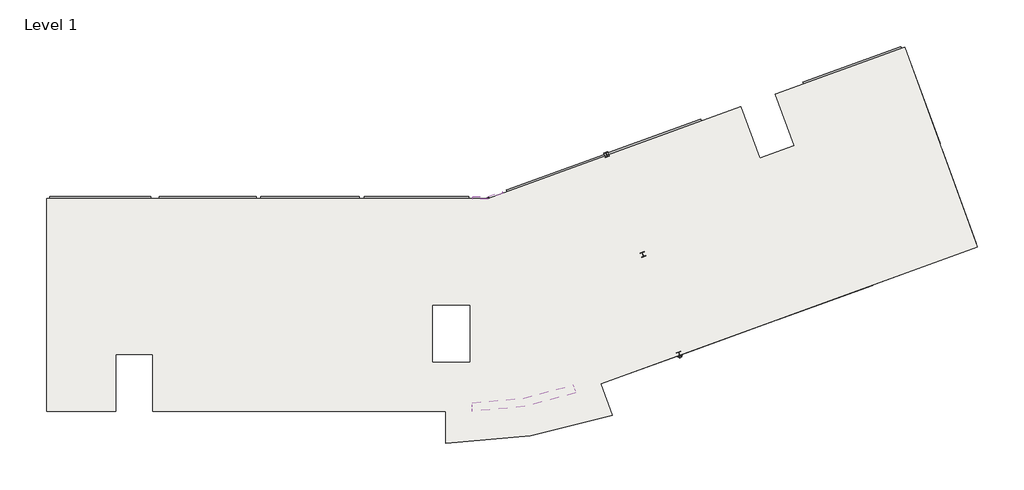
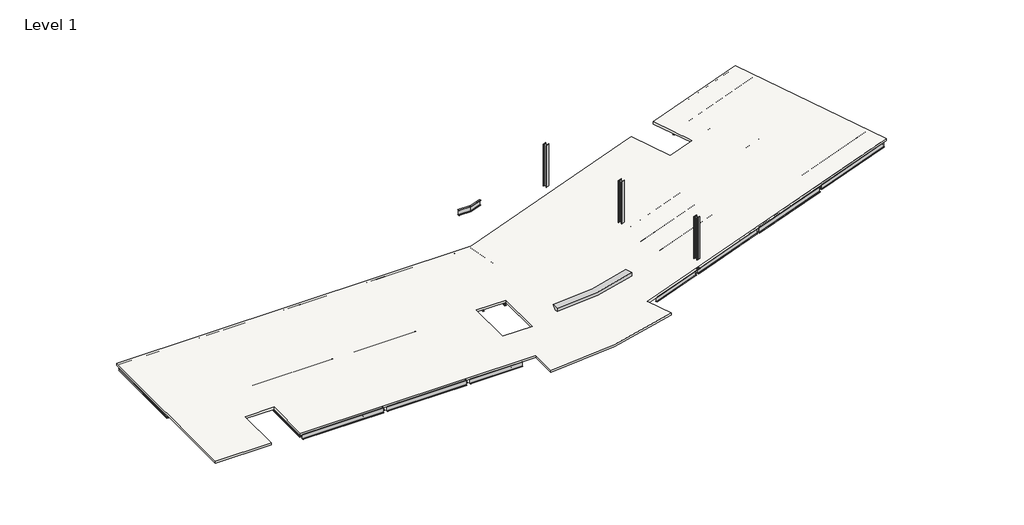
# One storey: 87 beams, 3 columns, 1 proxy, 1 slab.
"""IFC4 building model written with IfcOpenShell, lengths in millimetres."""

from ifc_helpers import new_model, si_unit, point, frame, frame_2d, origin, place, context, project, spatial, polyline, circle_curve, trimmed, segment, composite_curve, outline, extrude, transform, mapped, element, save
from ifc_brep_helpers import plane_surface, cylinder_surface, revolved_surface, advanced_brep
from components import beam_e63ae445, l_unequal_leg_angles_l150x75x12_5957f89b, ub_universal_beams_ub305x127x37_14baedf7, ub_universal_beams_ub305x127x37_f823aa85, ub_universal_beams_ub305x127x37_cdbcbb51, ub_universal_beams_ub305x127x37_8d1efc97, ub_universal_beams_ub305x127x37_2b7a043a, ub_universal_beams_ub305x127x37_8d2b0bf5, ub_universal_beams_ub305x127x37_777f85ab, ub_universal_beams_ub305x127x37_60794b88, ub_universal_beams_ub305x127x37_7b5c5eb2, ub_universal_beams_ub305x127x37_99f87efb, ub_universal_beams_ub305x127x37_95b6a02e, ub_universal_beams_ub305x127x37_c2daeff1, ub_universal_beams_ub457x152x67_feb0265b, ub_universal_beams_ub457x152x67_78ad538f, ub_universal_beams_ub457x152x67_801fcbf0, ub_universal_beams_ub457x152x67_7192e0ee, ub_universal_beams_ub457x152x67_e0a47d06, ub_universal_beams_ub457x152x67_f5dc209c, ub_universal_beams_ub457x152x67_f862a4b8, ub_universal_beams_ub457x152x67_8999ab95, ub_universal_beams_ub457x152x67_f4163d89, ub_universal_beams_ub457x152x67_2e62ce28, ub_universal_beams_ub457x152x67_04894bd8, ub_universal_beams_ub457x152x67_86edb436, ub_universal_beams_ub457x152x67_b17e2f2f, ub_universal_beams_ub457x152x67_b2f2df74, ub_universal_beams_ub457x152x67_b8e2def0, ub_universal_beams_ub457x152x67_2ff38e45, ub_universal_beams_ub457x152x67_e84ce350, ub_universal_beams_ub457x152x67_9db4b58f, ub_universal_beams_ub457x152x67_cb9275ae, ub_universal_beams_ub457x152x67_412efc86, ub_universal_beams_ub457x152x67_9aa03224, ub_universal_beams_ub457x152x67_9cac6dc0, ub_universal_beams_ub457x152x67_907c3d5a, ub_universal_beams_ub457x152x67_0b84d38f, ub_universal_beams_ub457x152x67_1f1a17ad, ub_universal_beams_ub457x152x67_691381ed, ub_universal_beams_ub457x152x67_d2a0b01a, ub_universal_beams_ub457x152x67_b2398499, ub_universal_beams_ub457x152x67_5dccb8d6, ub_universal_beams_ub457x152x67_9299ccfd, ub_universal_beams_ub533x210x82_ef77b3a2, w_shapes_column_w12x79_b89a37d1

model = new_model("IFC4")

# Units and contexts
model_context = context("Model", 3, world=origin())
ifc_project = project(units=[si_unit("LENGTHUNIT", "METRE", prefix="MILLI")], contexts=[model_context])

# Site, building, storey
site = spatial("IfcSite", under=ifc_project)
building = spatial("IfcBuilding", under=site)
storey = spatial("IfcBuildingStorey", under=building, Name="Level 1", Elevation=3695.0)

# Beams
placement = place(None, origin())
beam_shape = beam_e63ae445(model_context)
element("IfcBeam", 1, ObjectType="Cranked Beam B2 : Cranked Beam B1", at=placement, inside=storey, context=model_context, shape_type="MappedRepresentation", body=[
    mapped(beam_shape, transform((0.0, 0.0, 0.0), x_axis=(1.0, 0.0, 0.0), y_axis=(0.0, 1.0, 0.0), z_axis=(0.0, 0.0, 1.0))),
])
l_unequal_leg_angles_l150x75x12_shape = l_unequal_leg_angles_l150x75x12_5957f89b(model_context)
element("IfcBeam", 2, ObjectType="L-Unequal Leg Angles : L150x75x12", at=placement, inside=storey, context=model_context, shape_type="MappedRepresentation", body=[
    mapped(l_unequal_leg_angles_l150x75x12_shape, transform((45120.9767448, 4161.3796452, 3850.0), x_axis=(0.9396926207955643, 0.3420201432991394, 0.0), y_axis=(0.0, 0.0, 1.0), z_axis=(0.3420201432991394, -0.9396926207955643, 0.0))),
])
ub_universal_beams_ub305x127x37_shape = ub_universal_beams_ub305x127x37_14baedf7(model_context)
element("IfcBeam", 3, ObjectType="UB-Universal Beams : UB305x127x37", at=placement, inside=storey, context=model_context, shape_type="MappedRepresentation", body=[
    mapped(ub_universal_beams_ub305x127x37_shape, transform((2457.6125027, 11575.7000004, 3542.8), x_axis=(0.0, 1.0, 0.0), y_axis=(-1.0, 0.0, 0.0), z_axis=(0.0, 0.0, 1.0))),
])
element("IfcBeam", 4, ObjectType="UB-Universal Beams : UB305x127x37", at=placement, inside=storey, context=model_context, shape_type="MappedRepresentation", body=[
    mapped(ub_universal_beams_ub305x127x37_shape, transform((4301.1250026, 11575.7000004, 3542.8), x_axis=(0.0, 1.0, 0.0), y_axis=(-1.0, 0.0, 0.0), z_axis=(0.0, 0.0, 1.0))),
])
element("IfcBeam", 5, ObjectType="UB-Universal Beams : UB305x127x37", at=placement, inside=storey, context=model_context, shape_type="MappedRepresentation", body=[
    mapped(ub_universal_beams_ub305x127x37_shape, transform((6144.6375025, 11575.7000005, 3542.8), x_axis=(0.0, 1.0, 0.0), y_axis=(-1.0, 0.0, 0.0), z_axis=(0.0, 0.0, 1.0))),
])
ub_universal_beams_ub305x127x37_2_shape = ub_universal_beams_ub305x127x37_f823aa85(model_context)
element("IfcBeam", 6, ObjectType="UB-Universal Beams : UB305x127x37", at=placement, inside=storey, context=model_context, shape_type="MappedRepresentation", body=[
    mapped(ub_universal_beams_ub305x127x37_2_shape, transform((9831.6625024, 4113.2000005, 3542.8), x_axis=(0.0, 1.0, 0.0), y_axis=(-1.0, 0.0, 0.0), z_axis=(0.0, 0.0, 1.0))),
])
element("IfcBeam", 7, ObjectType="UB-Universal Beams : UB305x127x37", at=placement, inside=storey, context=model_context, shape_type="MappedRepresentation", body=[
    mapped(ub_universal_beams_ub305x127x37_2_shape, transform((11675.1750024, 4113.2000005, 3542.8), x_axis=(0.0, 1.0, 0.0), y_axis=(-1.0, 0.0, 0.0), z_axis=(0.0, 0.0, 1.0))),
])
element("IfcBeam", 8, ObjectType="UB-Universal Beams : UB305x127x37", at=placement, inside=storey, context=model_context, shape_type="MappedRepresentation", body=[
    mapped(ub_universal_beams_ub305x127x37_2_shape, transform((13518.6875023, 4113.2000005, 3542.8), x_axis=(0.0, 1.0, 0.0), y_axis=(-1.0, 0.0, 0.0), z_axis=(0.0, 0.0, 1.0))),
])
element("IfcBeam", 9, ObjectType="UB-Universal Beams : UB305x127x37", at=placement, inside=storey, context=model_context, shape_type="MappedRepresentation", body=[
    mapped(ub_universal_beams_ub305x127x37_2_shape, transform((9887.2000022, 11613.2000005, 3542.8), x_axis=(0.0, 1.0, 0.0), y_axis=(-1.0, 0.0, 0.0), z_axis=(0.0, 0.0, 1.0))),
])
element("IfcBeam", 10, ObjectType="UB-Universal Beams : UB305x127x37", at=placement, inside=storey, context=model_context, shape_type="MappedRepresentation", body=[
    mapped(ub_universal_beams_ub305x127x37_2_shape, transform((11712.2000022, 11613.2000005, 3542.8), x_axis=(0.0, 1.0, 0.0), y_axis=(-1.0, 0.0, 0.0), z_axis=(0.0, 0.0, 1.0))),
])
element("IfcBeam", 11, ObjectType="UB-Universal Beams : UB305x127x37", at=placement, inside=storey, context=model_context, shape_type="MappedRepresentation", body=[
    mapped(ub_universal_beams_ub305x127x37_2_shape, transform((13537.2000023, 11613.2000005, 3542.8), x_axis=(0.0, 1.0, 0.0), y_axis=(-1.0, 0.0, 0.0), z_axis=(0.0, 0.0, 1.0))),
])
element("IfcBeam", 12, ObjectType="UB-Universal Beams : UB305x127x37", at=placement, inside=storey, context=model_context, shape_type="MappedRepresentation", body=[
    mapped(ub_universal_beams_ub305x127x37_2_shape, transform((17187.2000023, 11613.2000005, 3542.8), x_axis=(0.0, 1.0, 0.0), y_axis=(-1.0, 0.0, 0.0), z_axis=(0.0, 0.0, 1.0))),
])
element("IfcBeam", 13, ObjectType="UB-Universal Beams : UB305x127x37", at=placement, inside=storey, context=model_context, shape_type="MappedRepresentation", body=[
    mapped(ub_universal_beams_ub305x127x37_2_shape, transform((19012.2000023, 11613.2000005, 3542.8), x_axis=(0.0, 1.0, 0.0), y_axis=(-1.0, 0.0, 0.0), z_axis=(0.0, 0.0, 1.0))),
])
element("IfcBeam", 14, ObjectType="UB-Universal Beams : UB305x127x37", at=placement, inside=storey, context=model_context, shape_type="MappedRepresentation", body=[
    mapped(ub_universal_beams_ub305x127x37_2_shape, transform((20837.2000022, 11613.2000005, 3542.8), x_axis=(0.0, 1.0, 0.0), y_axis=(-1.0, 0.0, 0.0), z_axis=(0.0, 0.0, 1.0))),
])
element("IfcBeam", 15, ObjectType="UB-Universal Beams : UB305x127x37", at=placement, inside=storey, context=model_context, shape_type="MappedRepresentation", body=[
    mapped(ub_universal_beams_ub305x127x37_2_shape, transform((24587.2000022, 11613.2000005, 3542.8), x_axis=(0.0, 1.0, 0.0), y_axis=(-1.0, 0.0, 0.0), z_axis=(0.0, 0.0, 1.0))),
])
element("IfcBeam", 16, ObjectType="UB-Universal Beams : UB305x127x37", at=placement, inside=storey, context=model_context, shape_type="MappedRepresentation", body=[
    mapped(ub_universal_beams_ub305x127x37_2_shape, transform((26512.2000022, 11613.2000005, 3542.8), x_axis=(0.0, 1.0, 0.0), y_axis=(-1.0, 0.0, 0.0), z_axis=(0.0, 0.0, 1.0))),
])
element("IfcBeam", 17, ObjectType="UB-Universal Beams : UB305x127x37", at=placement, inside=storey, context=model_context, shape_type="MappedRepresentation", body=[
    mapped(ub_universal_beams_ub305x127x37_2_shape, transform((17187.2000022, 4113.2000005, 3542.8), x_axis=(0.0, 1.0, 0.0), y_axis=(-1.0, 0.0, 0.0), z_axis=(0.0, 0.0, 1.0))),
])
element("IfcBeam", 18, ObjectType="UB-Universal Beams : UB305x127x37", at=placement, inside=storey, context=model_context, shape_type="MappedRepresentation", body=[
    mapped(ub_universal_beams_ub305x127x37_2_shape, transform((19012.2000022, 4113.2000005, 3542.8), x_axis=(0.0, 1.0, 0.0), y_axis=(-1.0, 0.0, 0.0), z_axis=(0.0, 0.0, 1.0))),
])
element("IfcBeam", 19, ObjectType="UB-Universal Beams : UB305x127x37", at=placement, inside=storey, context=model_context, shape_type="MappedRepresentation", body=[
    mapped(ub_universal_beams_ub305x127x37_2_shape, transform((20837.2000022, 4113.2000005, 3542.8), x_axis=(0.0, 1.0, 0.0), y_axis=(-1.0, 0.0, 0.0), z_axis=(0.0, 0.0, 1.0))),
])
element("IfcBeam", 20, ObjectType="UB-Universal Beams : UB305x127x37", at=placement, inside=storey, context=model_context, shape_type="MappedRepresentation", body=[
    mapped(ub_universal_beams_ub305x127x37_2_shape, transform((24587.2000022, 4113.2000004, 3542.8), x_axis=(0.0, 1.0, 0.0), y_axis=(-1.0, 0.0, 0.0), z_axis=(0.0, 0.0, 1.0))),
])
element("IfcBeam", 21, ObjectType="UB-Universal Beams : UB305x127x37", at=placement, inside=storey, context=model_context, shape_type="MappedRepresentation", body=[
    mapped(ub_universal_beams_ub305x127x37_2_shape, transform((26512.2000022, 4113.2000004, 3542.8), x_axis=(0.0, 1.0, 0.0), y_axis=(-1.0, 0.0, 0.0), z_axis=(0.0, 0.0, 1.0))),
])
element("IfcBeam", 22, ObjectType="UB-Universal Beams : UB305x127x37", at=placement, inside=storey, context=model_context, shape_type="MappedRepresentation", body=[
    mapped(ub_universal_beams_ub305x127x37_2_shape, transform((39409.0148654, 14226.6858637, 3542.8), x_axis=(0.34202014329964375, -0.9396926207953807, 0.0), y_axis=(0.9396926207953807, 0.34202014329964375, 0.0), z_axis=(0.0, 0.0, 1.0))),
])
element("IfcBeam", 23, ObjectType="UB-Universal Beams : UB305x127x37", at=placement, inside=storey, context=model_context, shape_type="MappedRepresentation", body=[
    mapped(ub_universal_beams_ub305x127x37_2_shape, transform((37600.1065704, 13568.2970878, 3542.8), x_axis=(0.34202014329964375, -0.9396926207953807, 0.0), y_axis=(0.9396926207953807, 0.34202014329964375, 0.0), z_axis=(0.0, 0.0, 1.0))),
])
element("IfcBeam", 24, ObjectType="UB-Universal Beams : UB305x127x37", at=placement, inside=storey, context=model_context, shape_type="MappedRepresentation", body=[
    mapped(ub_universal_beams_ub305x127x37_2_shape, transform((42915.2429568, 15502.8485233, 3542.8), x_axis=(-0.3420201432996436, 0.9396926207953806, 0.0), y_axis=(-0.9396926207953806, -0.3420201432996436, 0.0), z_axis=(0.0, 0.0, 1.0))),
])
element("IfcBeam", 25, ObjectType="UB-Universal Beams : UB305x127x37", at=placement, inside=storey, context=model_context, shape_type="MappedRepresentation", body=[
    mapped(ub_universal_beams_ub305x127x37_2_shape, transform((44612.5627531, 16120.6224071, 3542.8), x_axis=(-0.34202014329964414, 0.9396926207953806, 0.0), y_axis=(-0.9396926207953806, -0.34202014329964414, 0.0), z_axis=(0.0, 0.0, 1.0))),
])
element("IfcBeam", 26, ObjectType="UB-Universal Beams : UB305x127x37", at=placement, inside=storey, context=model_context, shape_type="MappedRepresentation", body=[
    mapped(ub_universal_beams_ub305x127x37_2_shape, transform((46309.8825494, 16738.396291, 3542.8), x_axis=(-0.34202014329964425, 0.9396926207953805, 0.0), y_axis=(-0.9396926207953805, -0.34202014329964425, 0.0), z_axis=(0.0, 0.0, 1.0))),
])
ub_universal_beams_ub305x127x37_3_shape = ub_universal_beams_ub305x127x37_cdbcbb51(model_context)
element("IfcBeam", 27, ObjectType="UB-Universal Beams : UB305x127x37", at=placement, inside=storey, context=model_context, shape_type="MappedRepresentation", body=[
    mapped(ub_universal_beams_ub305x127x37_3_shape, transform((28437.2000022, 11613.2000005, 3542.8), x_axis=(0.0, 1.0, 0.0), y_axis=(-1.0, 0.0, 0.0), z_axis=(0.0, 0.0, 1.0))),
])
ub_universal_beams_ub305x127x37_4_shape = ub_universal_beams_ub305x127x37_8d1efc97(model_context)
element("IfcBeam", 28, ObjectType="UB-Universal Beams : UB305x127x37", at=placement, inside=storey, context=model_context, shape_type="MappedRepresentation", body=[
    mapped(ub_universal_beams_ub305x127x37_4_shape, transform((35791.1982754, 12909.908312, 3542.8), x_axis=(0.3420201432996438, -0.9396926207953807, 0.0), y_axis=(0.9396926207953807, 0.3420201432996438, 0.0), z_axis=(0.0, 0.0, 1.0))),
])
ub_universal_beams_ub305x127x37_5_shape = ub_universal_beams_ub305x127x37_2b7a043a(model_context)
element("IfcBeam", 29, ObjectType="UB-Universal Beams : UB305x127x37", at=placement, inside=storey, context=model_context, shape_type="MappedRepresentation", body=[
    mapped(ub_universal_beams_ub305x127x37_5_shape, transform((42122.1150828, 5237.5069684, 3542.8), x_axis=(-0.939692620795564, -0.3420201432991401, 0.0), y_axis=(0.3420201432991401, -0.939692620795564, 0.0), z_axis=(0.0, 0.0, 1.0))),
])
element("IfcBeam", 30, ObjectType="UB-Universal Beams : UB305x127x37", at=placement, inside=storey, context=model_context, shape_type="MappedRepresentation", body=[
    mapped(ub_universal_beams_ub305x127x37_5_shape, transform((41480.8273141, 6999.4306323, 3542.8), x_axis=(-0.9396926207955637, -0.3420201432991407, 0.0), y_axis=(0.3420201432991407, -0.9396926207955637, 0.0), z_axis=(0.0, 0.0, 1.0))),
])
element("IfcBeam", 31, ObjectType="UB-Universal Beams : UB305x127x37", at=placement, inside=storey, context=model_context, shape_type="MappedRepresentation", body=[
    mapped(ub_universal_beams_ub305x127x37_5_shape, transform((40839.5395455, 8761.3542963, 3542.8), x_axis=(-0.939692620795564, -0.3420201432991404, 0.0), y_axis=(0.3420201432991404, -0.939692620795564, 0.0), z_axis=(0.0, 0.0, 1.0))),
])
ub_universal_beams_ub305x127x37_6_shape = ub_universal_beams_ub305x127x37_8d2b0bf5(model_context)
element("IfcBeam", 32, ObjectType="UB-Universal Beams : UB305x127x37", at=placement, inside=storey, context=model_context, shape_type="MappedRepresentation", body=[
    mapped(ub_universal_beams_ub305x127x37_6_shape, transform((46536.4260592, 10834.8514152, 3542.8), x_axis=(0.9396926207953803, 0.342020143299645, 0.0), y_axis=(-0.342020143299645, 0.9396926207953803, 0.0), z_axis=(0.0, 0.0, 1.0))),
])
element("IfcBeam", 33, ObjectType="UB-Universal Beams : UB305x127x37", at=placement, inside=storey, context=model_context, shape_type="MappedRepresentation", body=[
    mapped(ub_universal_beams_ub305x127x37_6_shape, transform((47177.7138279, 9072.9277512, 3542.8), x_axis=(0.9396926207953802, 0.34202014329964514, 0.0), y_axis=(-0.34202014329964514, 0.9396926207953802, 0.0), z_axis=(0.0, 0.0, 1.0))),
])
element("IfcBeam", 34, ObjectType="UB-Universal Beams : UB305x127x37", at=placement, inside=storey, context=model_context, shape_type="MappedRepresentation", body=[
    mapped(ub_universal_beams_ub305x127x37_6_shape, transform((47819.0015966, 7311.0040872, 3542.8), x_axis=(0.9396926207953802, 0.3420201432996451, 0.0), y_axis=(-0.3420201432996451, 0.9396926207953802, 0.0), z_axis=(0.0, 0.0, 1.0))),
])
ub_universal_beams_ub305x127x37_7_shape = ub_universal_beams_ub305x127x37_777f85ab(model_context)
element("IfcBeam", 35, ObjectType="UB-Universal Beams : UB305x127x37", at=placement, inside=storey, context=model_context, shape_type="MappedRepresentation", body=[
    mapped(ub_universal_beams_ub305x127x37_7_shape, transform((60479.1153202, 15909.5752914, 3542.8), x_axis=(0.9396926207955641, 0.34202014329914, 0.0), y_axis=(-0.34202014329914, 0.9396926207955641, 0.0), z_axis=(0.0, 0.0, 1.0))),
])
element("IfcBeam", 36, ObjectType="UB-Universal Beams : UB305x127x37", at=placement, inside=storey, context=model_context, shape_type="MappedRepresentation", body=[
    mapped(ub_universal_beams_ub305x127x37_7_shape, transform((61120.4030889, 14147.6516274, 3542.8), x_axis=(0.9396926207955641, 0.34202014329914, 0.0), y_axis=(-0.34202014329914, 0.9396926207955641, 0.0), z_axis=(0.0, 0.0, 1.0))),
])
element("IfcBeam", 37, ObjectType="UB-Universal Beams : UB305x127x37", at=placement, inside=storey, context=model_context, shape_type="MappedRepresentation", body=[
    mapped(ub_universal_beams_ub305x127x37_7_shape, transform((61761.6908576, 12385.7279634, 3542.8), x_axis=(0.9396926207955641, 0.3420201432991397, 0.0), y_axis=(-0.3420201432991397, 0.9396926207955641, 0.0), z_axis=(0.0, 0.0, 1.0))),
])
element("IfcBeam", 38, ObjectType="UB-Universal Beams : UB305x127x37", at=placement, inside=storey, context=model_context, shape_type="MappedRepresentation", body=[
    mapped(ub_universal_beams_ub305x127x37_7_shape, transform((57913.9642455, 22957.2699473, 3542.8), x_axis=(0.9396926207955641, 0.3420201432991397, 0.0), y_axis=(-0.3420201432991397, 0.9396926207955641, 0.0), z_axis=(0.0, 0.0, 1.0))),
])
element("IfcBeam", 39, ObjectType="UB-Universal Beams : UB305x127x37", at=placement, inside=storey, context=model_context, shape_type="MappedRepresentation", body=[
    mapped(ub_universal_beams_ub305x127x37_7_shape, transform((58555.2520142, 21195.3462833, 3542.8), x_axis=(0.9396926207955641, 0.3420201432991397, 0.0), y_axis=(-0.3420201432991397, 0.9396926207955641, 0.0), z_axis=(0.0, 0.0, 1.0))),
])
element("IfcBeam", 40, ObjectType="UB-Universal Beams : UB305x127x37", at=placement, inside=storey, context=model_context, shape_type="MappedRepresentation", body=[
    mapped(ub_universal_beams_ub305x127x37_7_shape, transform((59196.5397829, 19433.4226193, 3542.8), x_axis=(0.9396926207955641, 0.3420201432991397, 0.0), y_axis=(-0.3420201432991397, 0.9396926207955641, 0.0), z_axis=(0.0, 0.0, 1.0))),
])
ub_universal_beams_ub305x127x37_8_shape = ub_universal_beams_ub305x127x37_60794b88(model_context)
element("IfcBeam", 41, ObjectType="UB-Universal Beams : UB305x127x37", at=placement, inside=storey, context=model_context, shape_type="MappedRepresentation", body=[
    mapped(ub_universal_beams_ub305x127x37_8_shape, transform((53431.3248942, 21325.7226526, 3542.8), x_axis=(-0.939692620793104, -0.34202014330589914, 0.0), y_axis=(0.34202014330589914, -0.939692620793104, 0.0), z_axis=(0.0, 0.0, 1.0))),
])
element("IfcBeam", 42, ObjectType="UB-Universal Beams : UB305x127x37", at=placement, inside=storey, context=model_context, shape_type="MappedRepresentation", body=[
    mapped(ub_universal_beams_ub305x127x37_8_shape, transform((54072.6126629, 19563.7989886, 3542.8), x_axis=(-0.939692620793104, -0.3420201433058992, 0.0), y_axis=(0.3420201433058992, -0.939692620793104, 0.0), z_axis=(0.0, 0.0, 1.0))),
])
element("IfcBeam", 43, ObjectType="UB-Universal Beams : UB305x127x37", at=placement, inside=storey, context=model_context, shape_type="MappedRepresentation", body=[
    mapped(ub_universal_beams_ub305x127x37_8_shape, transform((54713.9004316, 17801.8753247, 3542.8), x_axis=(-0.939692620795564, -0.34202014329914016, 0.0), y_axis=(0.34202014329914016, -0.939692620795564, 0.0), z_axis=(0.0, 0.0, 1.0))),
])
ub_universal_beams_ub305x127x37_9_shape = ub_universal_beams_ub305x127x37_7b5c5eb2(model_context)
element("IfcBeam", 44, ObjectType="UB-Universal Beams : UB305x127x37", at=placement, inside=storey, context=model_context, shape_type="MappedRepresentation", body=[
    mapped(ub_universal_beams_ub305x127x37_9_shape, transform((52185.7228693, 11321.365084, 3542.8), x_axis=(0.9396926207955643, 0.3420201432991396, 0.0), y_axis=(-0.3420201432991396, 0.9396926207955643, 0.0), z_axis=(0.0, 0.0, 1.0))),
])
element("IfcBeam", 45, ObjectType="UB-Universal Beams : UB305x127x37", at=placement, inside=storey, context=model_context, shape_type="MappedRepresentation", body=[
    mapped(ub_universal_beams_ub305x127x37_9_shape, transform((51681.2431579, 12707.4116997, 3542.8), x_axis=(0.9396926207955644, 0.34202014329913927, 0.0), y_axis=(-0.34202014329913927, 0.9396926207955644, 0.0), z_axis=(0.0, 0.0, 1.0))),
])
ub_universal_beams_ub305x127x37_10_shape = ub_universal_beams_ub305x127x37_99f87efb(model_context)
element("IfcBeam", 46, ObjectType="UB-Universal Beams : UB305x127x37", at=placement, inside=storey, context=model_context, shape_type="MappedRepresentation", body=[
    mapped(ub_universal_beams_ub305x127x37_10_shape, transform((55650.8394085, 12582.5643624, 3542.8), x_axis=(0.939692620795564, 0.34202014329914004, 0.0), y_axis=(-0.34202014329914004, 0.939692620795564, 0.0), z_axis=(0.0, 0.0, 1.0))),
])
element("IfcBeam", 47, ObjectType="UB-Universal Beams : UB305x127x37", at=placement, inside=storey, context=model_context, shape_type="MappedRepresentation", body=[
    mapped(ub_universal_beams_ub305x127x37_10_shape, transform((56300.6776807, 10797.1483829, 3542.8), x_axis=(0.9396926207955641, 0.3420201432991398, 0.0), y_axis=(-0.3420201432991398, 0.9396926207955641, 0.0), z_axis=(0.0, 0.0, 1.0))),
])
element("IfcBeam", 48, ObjectType="UB-Universal Beams : UB305x127x37", at=placement, inside=storey, context=model_context, shape_type="MappedRepresentation", body=[
    mapped(ub_universal_beams_ub305x127x37_10_shape, transform((55146.3596971, 13968.6109781, 3542.8), x_axis=(0.9396926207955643, 0.34202014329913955, 0.0), y_axis=(-0.34202014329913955, 0.9396926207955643, 0.0), z_axis=(0.0, 0.0, 1.0))),
])
ub_universal_beams_ub305x127x37_11_shape = ub_universal_beams_ub305x127x37_95b6a02e(model_context)
element("IfcBeam", 49, ObjectType="UB-Universal Beams : UB305x127x37", at=placement, inside=storey, context=model_context, shape_type="MappedRepresentation", body=[
    mapped(ub_universal_beams_ub305x127x37_11_shape, transform((52835.5611416, 9535.9491045, 3542.8), x_axis=(-0.9396926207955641, -0.34202014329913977, 0.0), y_axis=(0.34202014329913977, -0.9396926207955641, 0.0), z_axis=(0.0, 0.0, 1.0))),
])
ub_universal_beams_ub305x127x37_12_shape = ub_universal_beams_ub305x127x37_c2daeff1(model_context)
element("IfcBeam", 50, ObjectType="UB-Universal Beams : UB305x127x37", at=placement, inside=storey, context=model_context, shape_type="MappedRepresentation", body=[
    mapped(ub_universal_beams_ub305x127x37_12_shape, transform((7988.1500025, 7863.2000005, 3542.8), x_axis=(0.0, 1.0, 0.0), y_axis=(-1.0, 0.0, 0.0), z_axis=(0.0, 0.0, 1.0))),
])
ub_universal_beams_ub457x152x67_shape = ub_universal_beams_ub457x152x67_feb0265b(model_context)
element("IfcBeam", 51, ObjectType="UB-Universal Beams : UB457x152x67", at=placement, inside=storey, context=model_context, shape_type="MappedRepresentation", body=[
    mapped(ub_universal_beams_ub457x152x67_shape, transform((32191.7898055, 11821.5156209, 3466.0), x_axis=(0.173648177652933, -0.9848077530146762, 0.0), y_axis=(0.9848077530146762, 0.173648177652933, 0.0), z_axis=(0.0, 0.0, 1.0))),
])
ub_universal_beams_ub457x152x67_2_shape = ub_universal_beams_ub457x152x67_78ad538f(model_context)
element("IfcBeam", 52, ObjectType="UB-Universal Beams : UB457x152x67", at=placement, inside=storey, context=model_context, shape_type="MappedRepresentation", body=[
    mapped(ub_universal_beams_ub457x152x67_2_shape, transform((31317.5755278, 11361.2273115, 3466.0), x_axis=(1.0, 0.0, 0.0), y_axis=(0.0, 1.0, 0.0), z_axis=(0.0, 0.0, 1.0))),
])
ub_universal_beams_ub457x152x67_3_shape = ub_universal_beams_ub457x152x67_801fcbf0(model_context)
element("IfcBeam", 53, ObjectType="UB-Universal Beams : UB457x152x67", at=placement, inside=storey, context=model_context, shape_type="MappedRepresentation", body=[
    mapped(ub_universal_beams_ub457x152x67_3_shape, transform((33170.7103845, 11687.9849855, 3466.0), x_axis=(0.9396926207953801, 0.3420201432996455, 0.0), y_axis=(-0.3420201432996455, 0.9396926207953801, 0.0), z_axis=(0.0, 0.0, 1.0))),
])
ub_universal_beams_ub457x152x67_4_shape = ub_universal_beams_ub457x152x67_7192e0ee(model_context)
element("IfcBeam", 54, ObjectType="UB-Universal Beams : UB457x152x67", at=placement, inside=storey, context=model_context, shape_type="MappedRepresentation", body=[
    mapped(ub_universal_beams_ub457x152x67_4_shape, transform((45895.1382905, 12596.7750792, 3466.0), x_axis=(0.9396926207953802, 0.34202014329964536, 0.0), y_axis=(-0.34202014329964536, 0.9396926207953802, 0.0), z_axis=(0.0, 0.0, 1.0))),
])
element("IfcBeam", 55, ObjectType="UB-Universal Beams : UB457x152x67", at=placement, inside=storey, context=model_context, shape_type="MappedRepresentation", body=[
    mapped(ub_universal_beams_ub457x152x67_4_shape, transform((48460.2893652, 5549.0804232, 3466.0), x_axis=(0.9396926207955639, 0.3420201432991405, 0.0), y_axis=(-0.3420201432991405, 0.9396926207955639, 0.0), z_axis=(0.0, 0.0, 1.0))),
])
ub_universal_beams_ub457x152x67_5_shape = ub_universal_beams_ub457x152x67_e0a47d06(model_context)
element("IfcBeam", 56, ObjectType="UB-Universal Beams : UB457x152x67", at=placement, inside=storey, context=model_context, shape_type="MappedRepresentation", body=[
    mapped(ub_universal_beams_ub457x152x67_5_shape, transform((40198.2517768, 10523.2779603, 3466.0), x_axis=(0.9396926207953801, 0.34202014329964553, 0.0), y_axis=(-0.34202014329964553, 0.9396926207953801, 0.0), z_axis=(0.0, 0.0, 1.0))),
])
ub_universal_beams_ub457x152x67_6_shape = ub_universal_beams_ub457x152x67_f5dc209c(model_context)
element("IfcBeam", 57, ObjectType="UB-Universal Beams : UB457x152x67", at=placement, inside=storey, context=model_context, shape_type="MappedRepresentation", body=[
    mapped(ub_universal_beams_ub457x152x67_6_shape, transform((41217.9231605, 14885.0746394, 3466.0), x_axis=(-0.3420201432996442, 0.9396926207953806, 0.0), y_axis=(-0.9396926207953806, -0.3420201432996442, 0.0), z_axis=(0.0, 0.0, 1.0))),
])
element("IfcBeam", 58, ObjectType="UB-Universal Beams : UB457x152x67", at=placement, inside=storey, context=model_context, shape_type="MappedRepresentation", body=[
    mapped(ub_universal_beams_ub457x152x67_6_shape, transform((43783.0742352, 7837.3799835, 3466.0), x_axis=(-0.3420201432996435, 0.939692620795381, 0.0), y_axis=(-0.939692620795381, -0.3420201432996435, 0.0), z_axis=(0.0, 0.0, 1.0))),
])
ub_universal_beams_ub457x152x67_7_shape = ub_universal_beams_ub457x152x67_f862a4b8(model_context)
element("IfcBeam", 59, ObjectType="UB-Universal Beams : UB457x152x67", at=placement, inside=storey, context=model_context, shape_type="MappedRepresentation", body=[
    mapped(ub_universal_beams_ub457x152x67_7_shape, transform((42763.4028515, 3475.5833044, 3466.0), x_axis=(-0.9396926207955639, -0.34202014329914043, 0.0), y_axis=(0.34202014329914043, -0.9396926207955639, 0.0), z_axis=(0.0, 0.0, 1.0))),
])
ub_universal_beams_ub457x152x67_8_shape = ub_universal_beams_ub457x152x67_8999ab95(model_context)
element("IfcBeam", 60, ObjectType="UB-Universal Beams : UB457x152x67", at=placement, inside=storey, context=model_context, shape_type="MappedRepresentation", body=[
    mapped(ub_universal_beams_ub457x152x67_8_shape, transform((4212.2000022, 15363.2000005, 3466.0), x_axis=(1.0, 0.0, 0.0), y_axis=(0.0, 1.0, 0.0), z_axis=(0.0, 0.0, 1.0))),
])
ub_universal_beams_ub457x152x67_9_shape = ub_universal_beams_ub457x152x67_f4163d89(model_context)
element("IfcBeam", 61, ObjectType="UB-Universal Beams : UB457x152x67", at=placement, inside=storey, context=model_context, shape_type="MappedRepresentation", body=[
    mapped(ub_universal_beams_ub457x152x67_9_shape, transform((19012.2000023, 7863.2000004, 3466.0), x_axis=(1.0, 0.0, 0.0), y_axis=(0.0, 1.0, 0.0), z_axis=(0.0, 0.0, 1.0))),
])
ub_universal_beams_ub457x152x67_10_shape = ub_universal_beams_ub457x152x67_2e62ce28(model_context)
element("IfcBeam", 62, ObjectType="UB-Universal Beams : UB457x152x67", at=placement, inside=storey, context=model_context, shape_type="MappedRepresentation", body=[
    mapped(ub_universal_beams_ub457x152x67_10_shape, transform((25112.2000025, 7863.2000004, 3466.0), x_axis=(1.0, 0.0, 0.0), y_axis=(0.0, 1.0, 0.0), z_axis=(0.0, 0.0, 1.0))),
])
ub_universal_beams_ub457x152x67_11_shape = ub_universal_beams_ub457x152x67_04894bd8(model_context)
element("IfcBeam", 63, ObjectType="UB-Universal Beams : UB457x152x67", at=placement, inside=storey, context=model_context, shape_type="MappedRepresentation", body=[
    mapped(ub_universal_beams_ub457x152x67_11_shape, transform((57502.5864988, 12830.8740757, 3466.0), x_axis=(0.3420201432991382, -0.9396926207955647, 0.0), y_axis=(0.9396926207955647, 0.3420201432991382, 0.0), z_axis=(0.0, 0.0, 1.0))),
])
ub_universal_beams_ub457x152x67_12_shape = ub_universal_beams_ub457x152x67_86edb436(model_context)
element("IfcBeam", 64, ObjectType="UB-Universal Beams : UB457x152x67", at=placement, inside=storey, context=model_context, shape_type="MappedRepresentation", body=[
    mapped(ub_universal_beams_ub457x152x67_12_shape, transform((614.1000027, 11575.7000004, 3466.0), x_axis=(0.0, 1.0, 0.0), y_axis=(-1.0, 0.0, 0.0), z_axis=(0.0, 0.0, 1.0))),
])
ub_universal_beams_ub457x152x67_13_shape = ub_universal_beams_ub457x152x67_b17e2f2f(model_context)
element("IfcBeam", 65, ObjectType="UB-Universal Beams : UB457x152x67", at=placement, inside=storey, context=model_context, shape_type="MappedRepresentation", body=[
    mapped(ub_universal_beams_ub457x152x67_13_shape, transform((11712.2000023, 15363.2000005, 3466.0), x_axis=(1.0, 0.0, 0.0), y_axis=(0.0, 1.0, 0.0), z_axis=(0.0, 0.0, 1.0))),
])
ub_universal_beams_ub457x152x67_14_shape = ub_universal_beams_ub457x152x67_b2f2df74(model_context)
element("IfcBeam", 66, ObjectType="UB-Universal Beams : UB457x152x67", at=placement, inside=storey, context=model_context, shape_type="MappedRepresentation", body=[
    mapped(ub_universal_beams_ub457x152x67_14_shape, transform((19012.2000023, 15363.2000005, 3466.0), x_axis=(1.0, 0.0, 0.0), y_axis=(0.0, 1.0, 0.0), z_axis=(0.0, 0.0, 1.0))),
])
element("IfcBeam", 67, ObjectType="UB-Universal Beams : UB457x152x67", at=placement, inside=storey, context=model_context, shape_type="MappedRepresentation", body=[
    mapped(ub_universal_beams_ub457x152x67_14_shape, transform((19012.2000022, 363.2000005, 3466.0), x_axis=(1.0, 0.0, 0.0), y_axis=(0.0, 1.0, 0.0), z_axis=(0.0, 0.0, 1.0))),
])
ub_universal_beams_ub457x152x67_15_shape = ub_universal_beams_ub457x152x67_b8e2def0(model_context)
element("IfcBeam", 68, ObjectType="UB-Universal Beams : UB457x152x67", at=placement, inside=storey, context=model_context, shape_type="MappedRepresentation", body=[
    mapped(ub_universal_beams_ub457x152x67_15_shape, transform((11674.7000023, 363.2000005, 3466.0), x_axis=(-1.0, 0.0, 0.0), y_axis=(0.0, -1.0, 0.0), z_axis=(0.0, 0.0, 1.0))),
])
ub_universal_beams_ub457x152x67_16_shape = ub_universal_beams_ub457x152x67_2ff38e45(model_context)
element("IfcBeam", 69, ObjectType="UB-Universal Beams : UB457x152x67", at=placement, inside=storey, context=model_context, shape_type="MappedRepresentation", body=[
    mapped(ub_universal_beams_ub457x152x67_16_shape, transform((25112.2000025, 363.2000005, 3466.0), x_axis=(1.0, 0.0, 0.0), y_axis=(0.0, 1.0, 0.0), z_axis=(0.0, 0.0, 1.0))),
])
ub_universal_beams_ub457x152x67_17_shape = ub_universal_beams_ub457x152x67_e84ce350(model_context)
element("IfcBeam", 70, ObjectType="UB-Universal Beams : UB457x152x67", at=placement, inside=storey, context=model_context, shape_type="MappedRepresentation", body=[
    mapped(ub_universal_beams_ub457x152x67_17_shape, transform((15362.2000023, 4113.2000005, 3466.0), x_axis=(0.0, 1.0, 0.0), y_axis=(-1.0, 0.0, 0.0), z_axis=(0.0, 0.0, 1.0))),
])
element("IfcBeam", 71, ObjectType="UB-Universal Beams : UB457x152x67", at=placement, inside=storey, context=model_context, shape_type="MappedRepresentation", body=[
    mapped(ub_universal_beams_ub457x152x67_17_shape, transform((22662.2000022, 4113.2000005, 3466.0), x_axis=(0.0, 1.0, 0.0), y_axis=(-1.0, 0.0, 0.0), z_axis=(0.0, 0.0, 1.0))),
])
ub_universal_beams_ub457x152x67_18_shape = ub_universal_beams_ub457x152x67_9db4b58f(model_context)
element("IfcBeam", 72, ObjectType="UB-Universal Beams : UB457x152x67", at=placement, inside=storey, context=model_context, shape_type="MappedRepresentation", body=[
    mapped(ub_universal_beams_ub457x152x67_18_shape, transform((15362.2000023, 11613.2000005, 3466.0), x_axis=(0.0, 1.0, 0.0), y_axis=(-1.0, 0.0, 0.0), z_axis=(0.0, 0.0, 1.0))),
])
element("IfcBeam", 73, ObjectType="UB-Universal Beams : UB457x152x67", at=placement, inside=storey, context=model_context, shape_type="MappedRepresentation", body=[
    mapped(ub_universal_beams_ub457x152x67_18_shape, transform((22662.2000022, 11613.2000005, 3466.0), x_axis=(0.0, 1.0, 0.0), y_axis=(-1.0, 0.0, 0.0), z_axis=(0.0, 0.0, 1.0))),
])
ub_universal_beams_ub457x152x67_19_shape = ub_universal_beams_ub457x152x67_cb9275ae(model_context)
element("IfcBeam", 74, ObjectType="UB-Universal Beams : UB457x152x67", at=placement, inside=storey, context=model_context, shape_type="MappedRepresentation", body=[
    mapped(ub_universal_beams_ub457x152x67_19_shape, transform((43329.9872158, 19644.4697351, 3466.0), x_axis=(0.9396926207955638, 0.3420201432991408, 0.0), y_axis=(-0.3420201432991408, 0.9396926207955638, 0.0), z_axis=(0.0, 0.0, 1.0))),
])
ub_universal_beams_ub457x152x67_20_shape = ub_universal_beams_ub457x152x67_412efc86(model_context)
element("IfcBeam", 75, ObjectType="UB-Universal Beams : UB457x152x67", at=placement, inside=storey, context=model_context, shape_type="MappedRepresentation", body=[
    mapped(ub_universal_beams_ub457x152x67_20_shape, transform((62402.9786263, 10623.8042994, 3466.0), x_axis=(0.9396926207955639, 0.34202014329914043, 0.0), y_axis=(-0.34202014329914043, 0.9396926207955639, 0.0), z_axis=(0.0, 0.0, 1.0))),
])
ub_universal_beams_ub457x152x67_21_shape = ub_universal_beams_ub457x152x67_9aa03224(model_context)
element("IfcBeam", 76, ObjectType="UB-Universal Beams : UB457x152x67", at=placement, inside=storey, context=model_context, shape_type="MappedRepresentation", body=[
    mapped(ub_universal_beams_ub457x152x67_21_shape, transform((64738.219679, 15464.4291791, 3466.0), x_axis=(-0.34202014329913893, 0.9396926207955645, 0.0), y_axis=(-0.9396926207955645, -0.34202014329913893, 0.0), z_axis=(0.0, 0.0, 1.0))),
])
element("IfcBeam", 77, ObjectType="UB-Universal Beams : UB457x152x67", at=placement, inside=storey, context=model_context, shape_type="MappedRepresentation", body=[
    mapped(ub_universal_beams_ub457x152x67_21_shape, transform((62173.0686043, 22512.123835, 3466.0), x_axis=(-0.3420201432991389, 0.9396926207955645, 0.0), y_axis=(-0.9396926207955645, -0.3420201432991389, 0.0), z_axis=(0.0, 0.0, 1.0))),
])
ub_universal_beams_ub457x152x67_22_shape = ub_universal_beams_ub457x152x67_9cac6dc0(model_context)
element("IfcBeam", 78, ObjectType="UB-Universal Beams : UB457x152x67", at=placement, inside=storey, context=model_context, shape_type="MappedRepresentation", body=[
    mapped(ub_universal_beams_ub457x152x67_22_shape, transform((57272.6764768, 24719.1936113, 3466.0), x_axis=(-0.9396926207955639, -0.3420201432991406, 0.0), y_axis=(0.3420201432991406, -0.9396926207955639, 0.0), z_axis=(0.0, 0.0, 1.0))),
])
ub_universal_beams_ub457x152x67_23_shape = ub_universal_beams_ub457x152x67_907c3d5a(model_context)
element("IfcBeam", 79, ObjectType="UB-Universal Beams : UB457x152x67", at=placement, inside=storey, context=model_context, shape_type="MappedRepresentation", body=[
    mapped(ub_universal_beams_ub457x152x67_23_shape, transform((54937.4354241, 19878.5687316, 3466.0), x_axis=(-0.3420201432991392, 0.9396926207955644, 0.0), y_axis=(-0.9396926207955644, -0.3420201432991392, 0.0), z_axis=(0.0, 0.0, 1.0))),
])
ub_universal_beams_ub457x152x67_24_shape = ub_universal_beams_ub457x152x67_0b84d38f(model_context)
element("IfcBeam", 80, ObjectType="UB-Universal Beams : UB457x152x67", at=placement, inside=storey, context=model_context, shape_type="MappedRepresentation", body=[
    mapped(ub_universal_beams_ub457x152x67_24_shape, transform((59849.5737093, 17675.7742072, 3466.0), x_axis=(0.9396926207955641, 0.3420201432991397, 0.0), y_axis=(-0.3420201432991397, 0.9396926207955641, 0.0), z_axis=(0.0, 0.0, 1.0))),
])
ub_universal_beams_ub457x152x67_25_shape = ub_universal_beams_ub457x152x67_1f1a17ad(model_context)
element("IfcBeam", 81, ObjectType="UB-Universal Beams : UB457x152x67", at=placement, inside=storey, context=model_context, shape_type="MappedRepresentation", body=[
    mapped(ub_universal_beams_ub457x152x67_25_shape, transform((26512.2000022, 15363.2000005, 3466.0), x_axis=(1.0, 0.0, 0.0), y_axis=(0.0, 1.0, 0.0), z_axis=(0.0, 0.0, 1.0))),
])
ub_universal_beams_ub457x152x67_26_shape = ub_universal_beams_ub457x152x67_691381ed(model_context)
element("IfcBeam", 82, ObjectType="UB-Universal Beams : UB457x152x67", at=placement, inside=storey, context=model_context, shape_type="MappedRepresentation", body=[
    mapped(ub_universal_beams_ub457x152x67_26_shape, transform((30362.2000022, 11613.2000005, 3466.0), x_axis=(0.0, 1.0, 0.0), y_axis=(-1.0, 0.0, 0.0), z_axis=(0.0, 0.0, 1.0))),
])
ub_universal_beams_ub457x152x67_27_shape = ub_universal_beams_ub457x152x67_d2a0b01a(model_context)
element("IfcBeam", 83, ObjectType="UB-Universal Beams : UB457x152x67", at=placement, inside=storey, context=model_context, shape_type="MappedRepresentation", body=[
    mapped(ub_universal_beams_ub457x152x67_27_shape, transform((33982.2899804, 12251.5195361, 3466.0), x_axis=(0.3420201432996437, -0.9396926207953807, 0.0), y_axis=(0.9396926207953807, 0.3420201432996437, 0.0), z_axis=(0.0, 0.0, 1.0))),
])
ub_universal_beams_ub457x152x67_28_shape = ub_universal_beams_ub457x152x67_b2398499(model_context)
element("IfcBeam", 84, ObjectType="UB-Universal Beams : UB457x152x67", at=placement, inside=storey, context=model_context, shape_type="MappedRepresentation", body=[
    mapped(ub_universal_beams_ub457x152x67_28_shape, transform((36317.5310328, 17092.1444158, 3466.0), x_axis=(0.9396926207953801, 0.3420201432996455, 0.0), y_axis=(-0.3420201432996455, 0.9396926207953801, 0.0), z_axis=(0.0, 0.0, 1.0))),
])
ub_universal_beams_ub457x152x67_29_shape = ub_universal_beams_ub457x152x67_5dccb8d6(model_context)
element("IfcBeam", 85, ObjectType="UB-Universal Beams : UB457x152x67", at=placement, inside=storey, context=model_context, shape_type="MappedRepresentation", body=[
    mapped(ub_universal_beams_ub457x152x67_29_shape, transform((8062.2000022, 11613.2000005, 3466.0), x_axis=(0.0, 1.0, 0.0), y_axis=(-1.0, 0.0, 0.0), z_axis=(0.0, 0.0, 1.0))),
])
ub_universal_beams_ub457x152x67_30_shape = ub_universal_beams_ub457x152x67_9299ccfd(model_context)
element("IfcBeam", 86, ObjectType="UB-Universal Beams : UB457x152x67", at=placement, inside=storey, context=model_context, shape_type="MappedRepresentation", body=[
    mapped(ub_universal_beams_ub457x152x67_30_shape, transform((11675.1750024, 7863.2000004, 3466.0), x_axis=(-1.0, 0.0, 0.0), y_axis=(0.0, -1.0, 0.0), z_axis=(0.0, 0.0, 1.0))),
])
ub_universal_beams_ub533x210x82_shape = ub_universal_beams_ub533x210x82_ef77b3a2(model_context)
element("IfcBeam", 87, ObjectType="UB-Universal Beams : UB533x210x82", at=placement, inside=storey, context=model_context, shape_type="MappedRepresentation", body=[
    mapped(ub_universal_beams_ub533x210x82_shape, transform((55320.045497, 8045.8274693, 3430.85), x_axis=(0.9396926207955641, 0.3420201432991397, 0.0), y_axis=(-0.3420201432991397, 0.9396926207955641, 0.0), z_axis=(0.0, 0.0, 1.0))),
])

# Proxy
element("IfcBuildingElementProxy", 88, Name="Slab Edge", ObjectType="Slab Edge", at=placement, inside=storey, context=model_context, shape_type="AdvancedBrep", body=[
    advanced_brep(
    [(30462.2000024, 288.0, 7295.0), (30462.2000024, 288.0, 7595.0), (30462.2000024, 888.0, 7595.0), (30462.2000024, 588.0, 7295.0), (37761.7672424, 1575.1106518, 7295.0), (37659.1611994, 1857.018438, 7295.0), (37556.5551564, 2138.9262243, 7595.0), (37761.7672424, 1575.1106518, 7595.0)],
    [
        (0, 1),
        (1, 2),
        (2, 3),
        (3, 0),
        (4, 5),
        (5, 6),
        (6, 7),
        (7, 4),
        (7, 1, circle_curve(frame((30462.2000024, 21630.5068175, 7595.0), z_axis=(0.0, 0.0, -1.0), x_axis=(0.0, -1.0, 0.0)), 21342.5068175)),
        (0, 4, circle_curve(frame((30462.2000024, 21630.5068175, 7295.0), z_axis=(0.0, 0.0, 1.0), x_axis=(0.0, -1.0, 0.0)), 21342.5068175)),
        (6, 2, circle_curve(frame((30462.2000024, 21630.5068175, 7595.0), z_axis=(0.0, 0.0, -1.0), x_axis=(0.0, -1.0, 0.0)), 20742.5068175)),
        (5, 3, circle_curve(frame((30462.2000024, 21630.5068175, 7295.0), z_axis=(0.0, 0.0, -1.0), x_axis=(0.0, -1.0, 0.0)), 21042.5068175)),
    ],
    [
        plane_surface(frame((30462.2000024, 21630.5068175, 7595.0), z_axis=(-1.0, 0.0, 0.0), x_axis=(0.0, -1.0, 0.0))),
        plane_surface(frame((30462.2000024, 21630.5068175, 7595.0), z_axis=(0.9396926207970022, 0.3420201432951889, 0.0), x_axis=(0.3420201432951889, -0.9396926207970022, 0.0))),
        cylinder_surface(frame((30462.2000024, 21630.5068175, 7595.0), z_axis=(0.0, 0.0, 1.0), x_axis=(0.0, -1.0, 0.0)), 21342.5068175),
        plane_surface(frame((30462.2000024, 21630.5068175, 7595.0), z_axis=(0.0, 0.0, 1.0), x_axis=(0.0, -1.0, 0.0))),
        revolved_surface(polyline([(30462.2000024, 888.0, 7595.0), (30462.2000024, 588.0, 7295.0)]), (30462.2000024, 21630.5068175, 7595.0), (0.0, 0.0, 1.0)),
        plane_surface(frame((30462.2000024, 21630.5068175, 7295.0), z_axis=(0.0, 0.0, -1.0), x_axis=(0.0, -1.0, 0.0))),
    ],
    [
        (0, [[1, 2, 3, 4]]),
        (1, [[5, 6, 7, 8]]),
        (2, [[9, -1, 10, -8]]),
        (3, [[11, -2, -9, -7]]),
        (4, [[12, -3, -11, -6]]),
        (5, [[-10, -4, -12, -5]]),
    ],
),
])

# Columns
w_shapes_column_w12x79_shape = w_shapes_column_w12x79_b89a37d1(model_context)
element("IfcColumn", 89, ObjectType="W Shapes-Column : W12X79", at=placement, inside=storey, context=model_context, shape_type="MappedRepresentation", body=[
    mapped(w_shapes_column_w12x79_shape, transform((39935.3476231, 18408.9219674, 0.0), x_axis=(0.9396926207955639, 0.3420201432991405, 0.0), y_axis=(-0.3420201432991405, 0.9396926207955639, 0.0), z_axis=(0.0, 0.0, 1.0))),
])
element("IfcColumn", 90, ObjectType="W Shapes-Column : W12X79", at=placement, inside=storey, context=model_context, shape_type="MappedRepresentation", body=[
    mapped(w_shapes_column_w12x79_shape, transform((42500.4986978, 11361.2273115, 0.0), x_axis=(0.9396926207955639, 0.3420201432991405, 0.0), y_axis=(-0.3420201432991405, 0.9396926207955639, 0.0), z_axis=(0.0, 0.0, 1.0))),
])
element("IfcColumn", 91, ObjectType="W Shapes-Column : W12X79", at=placement, inside=storey, context=model_context, shape_type="MappedRepresentation", body=[
    mapped(w_shapes_column_w12x79_shape, transform((45065.6497726, 4313.5326555, 0.0), x_axis=(0.939692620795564, 0.3420201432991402, 0.0), y_axis=(-0.3420201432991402, 0.939692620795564, 0.0), z_axis=(0.0, 0.0, 1.0))),
])

# Slab
element("IfcSlab", 92, ObjectType="RC COMP 175", at=placement, inside=storey, context=model_context, shape_type="SweptSolid", body=[
    extrude(outline(composite_curve([segment(trimmed(circle_curve(frame_2d((28027.924496, 36998.4991929)), 38999.3804108), [point((40330.9765444, -9.4267517))], [point((28589.8766928, -1996.8323502))], False, "CARTESIAN"), True, "CONTINUOUS"), segment(polyline([(28589.8766928, -1996.8323502), (28589.8766928, 288.0000005), (7887.2000023, 288.0000005), (7887.2000023, 4300.0), (5297.2000024, 4300.0), (5297.2000024, 288.0), (408.0, 288.0), (408.0000025, 15318.4000008), (31575.1947409, 15318.4000004), (49412.7637168, 21810.7441587), (50743.9061145, 18153.4604787), (53177.7100023, 19039.2926498), (51846.5676046, 22696.5763298), (60969.2448211, 26016.9592931), (66109.9443828, 11893.0033256), (39521.1756429, 2215.4829394), (40330.9765444, -9.4267517)]), True, "CONTINUOUS")], self_intersect=False), holes=[polyline([(30262.2000025, 3763.2000006), (30262.2000025, 7763.2000004), (27662.2000026, 7763.2000004), (27662.2000026, 3763.2000006), (30262.2000025, 3763.2000006)])]), frame((0.0, 0.0, 3695.0), z_axis=(0.0, 0.0, 1.0), x_axis=(1.0, 0.0, 0.0)), (0.0, 0.0, 1.0), 200.0),
])

save(model, "model.ifc")
